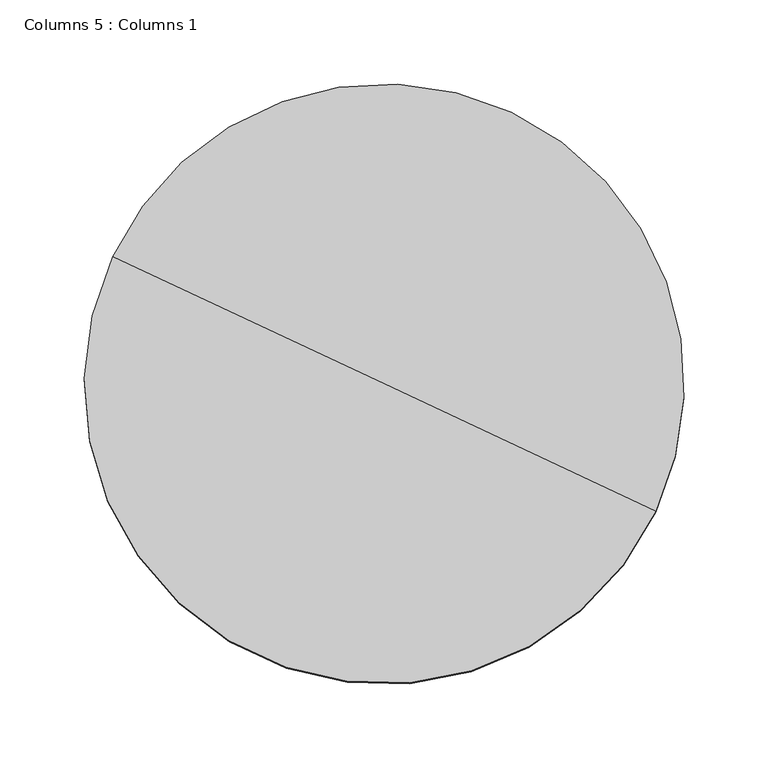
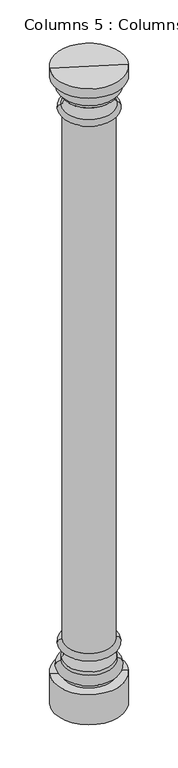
"""IFC4 building model written with IfcOpenShell, lengths in millimetres: column geometry, Columns 5 : Columns 1."""

import ifcopenshell
import ifcopenshell.guid

model = None  # the IFC model being written
_history = None  # IfcOwnerHistory: only IFC2X3 demands one
_inside = {}  # id of a spatial element -> (the spatial element, [elements in it])
_under = {}  # id of a project, library or spatial element -> (it, [spatial elements below it])
_declared = {}  # id of a project -> (the project, [libraries it declares])
_typed = {}  # id of a type object -> (the type object, [elements of that type])
_made_of = {}  # id of a material, layer set ... -> (it, [elements and type objects made of it])


def new_model(schema):
    """Start an empty IFC model of exactly this schema.

    Asked for "IFC4X3", IfcOpenShell would pick the latest addendum, in which some entities
    have other attributes; the version numbers below select the first issue.
    IFC2X3 requires an IfcOwnerHistory on every rooted entity: one is made here for all.
    """
    global model, _history
    if schema == "IFC4X3":
        model = ifcopenshell.file(schema_version=(4, 3, 0, 0))
    else:
        model = ifcopenshell.file(schema=schema)
    _inside.clear()
    _under.clear()
    _declared.clear()
    _typed.clear()
    _made_of.clear()
    _history = None
    if model.schema == "IFC2X3":
        org = make("IfcOrganization", Name="unknown")
        user = make(
            "IfcPersonAndOrganization",
            ThePerson=make("IfcPerson", FamilyName="unknown"),
            TheOrganization=org,
        )
        app = make(
            "IfcApplication",
            ApplicationDeveloper=org,
            Version="unknown",
            ApplicationFullName="unknown",
            ApplicationIdentifier="unknown",
        )
        _history = make(
            "IfcOwnerHistory",
            OwningUser=user,
            OwningApplication=app,
            ChangeAction="ADDED",
            CreationDate=0,
        )
    return model


def make(cls, **values):
    """One entity of the class cls with the attributes given. An attribute that is None is left unset."""
    return model.create_entity(
        cls, **{name: value for name, value in values.items() if value is not None}
    )


def rooted(cls, **values):
    """An entity with a GlobalId (a new one), such as an element, a storey or a relation."""
    return make(cls, GlobalId=ifcopenshell.guid.new(), OwnerHistory=_history, **values)


def si_unit(unit_type, name, prefix=None):
    """IfcSIUnit, for example si_unit("LENGTHUNIT", "METRE", prefix="MILLI")."""
    return make("IfcSIUnit", UnitType=unit_type, Prefix=prefix, Name=name)


def assignment(units):
    """IfcUnitAssignment: the units of a project."""
    return None if units is None else make("IfcUnitAssignment", Units=units)


def point(xyz):
    """IfcCartesianPoint."""
    return None if xyz is None else make("IfcCartesianPoint", Coordinates=xyz)


def direction(xyz):
    """IfcDirection."""
    return None if xyz is None else make("IfcDirection", DirectionRatios=xyz)


def frame(location, z_axis=None, x_axis=None):
    """IfcAxis2Placement3D, a coordinate frame: its origin and axes. An axis left out is left unset."""
    return make(
        "IfcAxis2Placement3D",
        Location=point(location),
        Axis=direction(z_axis),
        RefDirection=direction(x_axis),
    )


def origin():
    """The frame at (0, 0, 0) with its axes left unset."""
    return frame((0.0, 0.0, 0.0))


def place(relative_to, where):
    """IfcLocalPlacement: puts the frame where relative to a parent placement (None: the world)."""
    return make(
        "IfcLocalPlacement", PlacementRelTo=relative_to, RelativePlacement=where
    )


def context(
    kind, dimensions, precision=None, world=None, true_north=None, identifier=None
):
    """IfcGeometricRepresentationContext, for example the 3D "Model" context."""
    return make(
        "IfcGeometricRepresentationContext",
        ContextIdentifier=identifier,
        ContextType=kind,
        CoordinateSpaceDimension=dimensions,
        Precision=precision,
        WorldCoordinateSystem=world,
        TrueNorth=true_north,
    )


def project(units=None, contexts=None):
    """IfcProject with its units and contexts."""
    return rooted(
        "IfcProject",
        Name="project",
        RepresentationContexts=contexts,
        UnitsInContext=assignment(units),
    )


def spatial(cls, under=None, at=None, **own):
    """A site, building, storey or space (cls), placed at a placement, below another one or the project."""
    s = rooted(cls, ObjectPlacement=at, **own)
    if under is not None:
        _under.setdefault(under.id(), (under, []))[1].append(s)
    return s


def circle_curve(where, radius):
    """IfcCircle in the frame where."""
    return make("IfcCircle", Position=where, Radius=radius)


def ellipse_curve(where, semi_axis1, semi_axis2):
    """IfcEllipse in the frame where."""
    return make(
        "IfcEllipse", Position=where, SemiAxis1=semi_axis1, SemiAxis2=semi_axis2
    )


def trimmed(basis, trim1, trim2, sense, master):
    """IfcTrimmedCurve: the piece of a basis curve between two trims."""
    return make(
        "IfcTrimmedCurve",
        BasisCurve=basis,
        Trim1=trim1,
        Trim2=trim2,
        SenseAgreement=sense,
        MasterRepresentation=master,
    )


def shape(context_of_items, identifier, shape_type, items):
    """IfcShapeRepresentation: the items that make up one representation, for example the "Body"."""
    return make(
        "IfcShapeRepresentation",
        ContextOfItems=context_of_items,
        RepresentationIdentifier=identifier,
        RepresentationType=shape_type,
        Items=items,
    )


def source(mapping_origin, context_of_items, identifier, shape_type, items):
    """IfcRepresentationMap: a shape defined once, which mapped items show again and again."""
    return make(
        "IfcRepresentationMap",
        MappingOrigin=mapping_origin,
        MappedRepresentation=shape(context_of_items, identifier, shape_type, items),
    )


def transform(
    local_origin,
    x_axis=None,
    y_axis=None,
    z_axis=None,
    scale=None,
    scale2=None,
    scale3=None,
    uniform=True,
):
    """IfcCartesianTransformationOperator3D, or its non-uniform kind. x_axis, y_axis, z_axis: its Axis1, 2, 3."""
    if uniform:
        return make(
            "IfcCartesianTransformationOperator3D",
            Axis1=direction(x_axis),
            Axis2=direction(y_axis),
            LocalOrigin=point(local_origin),
            Scale=scale,
            Axis3=direction(z_axis),
        )
    return make(
        "IfcCartesianTransformationOperator3DnonUniform",
        Axis1=direction(x_axis),
        Axis2=direction(y_axis),
        LocalOrigin=point(local_origin),
        Scale=scale,
        Axis3=direction(z_axis),
        Scale2=scale2,
        Scale3=scale3,
    )


def mapped(mapping_source, mapping_target):
    """IfcMappedItem: shows the shape of a source again, moved by a transform."""
    return make(
        "IfcMappedItem", MappingSource=mapping_source, MappingTarget=mapping_target
    )


def made_of(thing, what):
    """Note that an element or type object is made of a material, layer set ...; save() writes the relation."""
    if what is not None:
        _made_of.setdefault(what.id(), (what, []))[1].append(thing)
    return thing


def element(
    cls,
    number,
    at=None,
    inside=None,
    cuts=None,
    type_object=None,
    material=None,
    context=None,
    identifier="Body",
    shape_type=None,
    held_by="IfcProductDefinitionShape",
    body=None,
    shapes=None,
    **own,
):
    """One element of the class cls, such as IfcWall. Its Tag is "e" and its number.

    at: its placement. inside: the storey or other place that contains it. cuts: it is an
    opening in that element (IfcRelVoidsElement). A single representation is given by context,
    identifier, shape_type and body (its items); several are given by shapes. held_by: the class
    of the entity that holds the representations. save() writes the other relations.
    """
    e = rooted(cls, Tag="e%d" % number, ObjectPlacement=at, **own)
    if body is not None:
        shapes = [shape(context, identifier, shape_type, body)]
    if shapes is not None:
        e.Representation = make(held_by, Representations=shapes)
    if inside is not None:
        _inside.setdefault(inside.id(), (inside, []))[1].append(e)
    if cuts is not None:
        rooted(
            "IfcRelVoidsElement", RelatingBuildingElement=cuts, RelatedOpeningElement=e
        )
    if type_object is not None:
        _typed.setdefault(type_object.id(), (type_object, []))[1].append(e)
    return made_of(e, material)


def aggregate(whole, parts):
    """IfcRelAggregates: a whole, such as a stair, and the parts it consists of."""
    return rooted("IfcRelAggregates", RelatingObject=whole, RelatedObjects=parts)


def save(model, path):
    """Write the relations noted so far, then the file.

    IfcRelAggregates (storeys below a building ...), IfcRelContainedInSpatialStructure (elements
    in a storey), IfcRelDefinesByType, IfcRelAssociatesMaterial and IfcRelDeclares: one each for
    every whole, place, type object, material and project.
    """
    for whole, parts in _under.values():
        aggregate(whole, parts)
    for where, things in _inside.values():
        rooted(
            "IfcRelContainedInSpatialStructure",
            RelatedElements=things,
            RelatingStructure=where,
        )
    for kind, things in _typed.values():
        rooted("IfcRelDefinesByType", RelatedObjects=things, RelatingType=kind)
    for what, things in _made_of.values():
        rooted("IfcRelAssociatesMaterial", RelatedObjects=things, RelatingMaterial=what)
    for by, libraries in _declared.values():
        rooted("IfcRelDeclares", RelatingContext=by, RelatedDefinitions=libraries)
    model.write(path)


def plane_surface(at):
    """IfcPlane: the flat surface through the origin of the frame at, square to its z axis."""
    return make("IfcPlane", Position=at)


def cylinder_surface(at, radius):
    """IfcCylindricalSurface: all points at the distance radius from the z axis of the frame at."""
    return make("IfcCylindricalSurface", Position=at, Radius=radius)


def revolved_surface(curve, axis_point, axis_direction):
    """IfcSurfaceOfRevolution: the curve turned about the line through axis_point along axis_direction."""
    return make(
        "IfcSurfaceOfRevolution",
        SweptCurve=make("IfcArbitraryOpenProfileDef", ProfileType="CURVE", Curve=curve),
        AxisPosition=make("IfcAxis1Placement", Location=point(axis_point), Axis=direction(axis_direction)),
    )


def advanced_brep(points, edges, surfaces, faces):
    """IfcAdvancedBrep: a solid bounded by faces that lie on surfaces and meet in shared edges.

    An edge is (start, end): straight between two places in points (the first is 0);
    or (start, end, curve); or (start, end, curve, False) where it runs against its curve.
    A face is (place in surfaces, loops), or (place, loops, False) where it looks against
    its surface's normal. A loop lists edges by number (the first is 1), with a minus sign
    where the edge is run from its end to its start. The first loop is the outer one.
    """
    corners = [point(p) for p in points]
    vertices = [make("IfcVertexPoint", VertexGeometry=c) for c in corners]
    made = []
    for start, end, *more in edges:
        made.append(
            make(
                "IfcEdgeCurve",
                EdgeStart=vertices[start],
                EdgeEnd=vertices[end],
                EdgeGeometry=more[0] if more else make("IfcPolyline", Points=[corners[start], corners[end]]),
                SameSense=more[1] if len(more) > 1 else True,
            )
        )
    hull = []
    for where, loops, *sense in faces:
        bounds = []
        for j, loop in enumerate(loops):
            ring = [make("IfcOrientedEdge", EdgeElement=made[abs(k) - 1], Orientation=k > 0) for k in loop]
            bounds.append(
                make(
                    "IfcFaceOuterBound" if j == 0 else "IfcFaceBound",
                    Bound=make("IfcEdgeLoop", EdgeList=ring),
                    Orientation=True,
                )
            )
        hull.append(make("IfcAdvancedFace", Bounds=bounds, FaceSurface=surfaces[where], SameSense=sense[0] if sense else True))
    return make("IfcAdvancedBrep", Outer=make("IfcClosedShell", CfsFaces=hull))


def columns_5_columns_1_10ea2eeb(model_context):
    return source(origin(), model_context, "Body", "AdvancedBrep", [
        advanced_brep(
        [(-13630.9638165, -8305.3703788, 3626.6477675), (-13953.0028061, -8154.5650435, 3626.6477675), (-13953.0028061, -8154.5650435, 3575.8477675), (-13630.9638165, -8305.3703788, 3575.8477675), (-13791.9833113, -8229.9677111, 3626.6477675), (-13630.9638165, -8305.3703788, 160.9345147), (-13953.0028061, -8154.5650435, 160.9345147), (-13791.9833113, -8229.9677111, 160.9345147), (-13630.9638165, -8305.3703788, 324.6477676), (-13953.0028061, -8154.5650435, 324.6477676), (-13677.6888754, -8283.4898351, 324.6477676), (-13906.2777472, -8176.4455872, 324.6477676), (-13677.6888754, -8283.4898351, 343.7101955), (-13906.2777472, -8176.4455872, 343.7101955), (-13677.6888754, -8283.4898351, 394.4853397), (-13906.2777472, -8176.4455872, 394.4853397), (-13677.6888754, -8283.4898351, 413.5477676), (-13906.2777472, -8176.4455872, 413.5477676), (-13682.7200827, -8281.133807, 477.0477676), (-13901.2465399, -8178.8016152, 477.0477676), (-13682.7200827, -8281.133807, 508.7757334), (-13901.2465399, -8178.8016152, 508.7757334), (-13682.7200827, -8281.133807, 3391.7198017), (-13901.2465399, -8178.8016152, 3391.7198017), (-13676.9693864, -8283.8267594, 3391.7198017), (-13906.9972361, -8176.1086628, 3391.7198017), (-13676.9693864, -8283.8267594, 3423.4477675), (-13906.9972361, -8176.1086628, 3423.4477675), (-13676.9693864, -8283.8267594, 3486.9477675), (-13906.9972361, -8176.1086628, 3486.9477675), (-13676.9693864, -8283.8267594, 3505.9977675), (-13906.9972361, -8176.1086628, 3505.9977675), (-13676.9693864, -8283.8267594, 3556.7977675), (-13906.9972361, -8176.1086628, 3556.7977675), (-13676.9693864, -8283.8267594, 3575.8477675), (-13906.9972361, -8176.1086628, 3575.8477675)],
        [
            (0, 1, circle_curve(frame((-13791.9833113, -8229.9677111, 3626.6477675), z_axis=(0.0, 0.0, -1.0), x_axis=(-0.9056214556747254, 0.4240869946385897, 0.0)), 177.8)),
            (1, 2),
            (2, 3, circle_curve(frame((-13791.9833113, -8229.9677111, 3575.8477675), z_axis=(0.0, 0.0, 1.0), x_axis=(-0.9056214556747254, 0.4240869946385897, 0.0)), 177.8)),
            (3, 0),
            (1, 0, circle_curve(frame((-13791.9833113, -8229.9677111, 3626.6477675), z_axis=(0.0, 0.0, -1.0), x_axis=(-0.9056214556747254, 0.4240869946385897, 0.0)), 177.8)),
            (3, 2, circle_curve(frame((-13791.9833113, -8229.9677111, 3575.8477675), z_axis=(0.0, 0.0, 1.0), x_axis=(-0.9056214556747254, 0.4240869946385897, 0.0)), 177.8)),
            (4, 1),
            (0, 4),
            (5, 6, circle_curve(frame((-13791.9833113, -8229.9677111, 160.9345147), z_axis=(0.0, 0.0, -1.0), x_axis=(-0.9056214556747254, 0.4240869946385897, 0.0)), 177.8)),
            (6, 7),
            (7, 5),
            (6, 5, circle_curve(frame((-13791.9833113, -8229.9677111, 160.9345147), z_axis=(0.0, 0.0, -1.0), x_axis=(-0.9056214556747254, 0.4240869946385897, 0.0)), 177.8)),
            (8, 9, circle_curve(frame((-13791.9833113, -8229.9677111, 324.6477676), z_axis=(0.0, 0.0, -1.0), x_axis=(-0.9056214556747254, 0.4240869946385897, 0.0)), 177.8)),
            (9, 6),
            (5, 8),
            (9, 8, circle_curve(frame((-13791.9833113, -8229.9677111, 324.6477676), z_axis=(0.0, 0.0, -1.0), x_axis=(-0.9056214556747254, 0.4240869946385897, 0.0)), 177.8)),
            (10, 11, circle_curve(frame((-13791.9833113, -8229.9677111, 324.6477676), z_axis=(0.0, 0.0, -1.0), x_axis=(-0.9056214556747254, 0.4240869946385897, 0.0)), 126.2055301)),
            (11, 9),
            (8, 10),
            (11, 10, circle_curve(frame((-13791.9833113, -8229.9677111, 324.6477676), z_axis=(0.0, 0.0, -1.0), x_axis=(-0.9056214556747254, 0.4240869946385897, 0.0)), 126.2055301)),
            (12, 13, circle_curve(frame((-13791.9833113, -8229.9677111, 343.7101955), z_axis=(0.0, 0.0, -1.0), x_axis=(-0.9056214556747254, 0.4240869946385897, 0.0)), 126.2055301)),
            (13, 11),
            (10, 12),
            (13, 12, circle_curve(frame((-13791.9833113, -8229.9677111, 343.7101955), z_axis=(0.0, 0.0, -1.0), x_axis=(-0.9056214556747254, 0.4240869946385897, 0.0)), 126.2055301)),
            (14, 15, circle_curve(frame((-13791.9833113, -8229.9677111, 394.4853397), z_axis=(0.0, 0.0, -1.0), x_axis=(-0.9056214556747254, 0.4240869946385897, 0.0)), 126.2055301)),
            (15, 13, circle_curve(frame((-13906.2777472, -8176.4455872, 369.0977676), z_axis=(-0.42408699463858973, -0.9056214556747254, 0.0), x_axis=(0.9056214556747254, -0.42408699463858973, 0.0)), 25.3875721)),
            (12, 14, circle_curve(frame((-13677.6888754, -8283.4898351, 369.0977676), z_axis=(-0.4240869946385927, -0.905621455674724, 0.0), x_axis=(-0.905621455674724, 0.4240869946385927, 0.0)), 25.3875721)),
            (15, 14, circle_curve(frame((-13791.9833113, -8229.9677111, 394.4853397), z_axis=(0.0, 0.0, -1.0), x_axis=(-0.9056214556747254, 0.4240869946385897, 0.0)), 126.2055301)),
            (16, 17, circle_curve(frame((-13791.9833113, -8229.9677111, 413.5477676), z_axis=(0.0, 0.0, -1.0), x_axis=(-0.9056214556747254, 0.4240869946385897, 0.0)), 126.2055301)),
            (17, 15),
            (14, 16),
            (17, 16, circle_curve(frame((-13791.9833113, -8229.9677111, 413.5477676), z_axis=(0.0, 0.0, -1.0), x_axis=(-0.9056214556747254, 0.4240869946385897, 0.0)), 126.2055301)),
            (18, 19, circle_curve(frame((-13791.9833113, -8229.9677111, 477.0477676), z_axis=(0.0, 0.0, -1.0), x_axis=(-0.9056214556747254, 0.4240869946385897, 0.0)), 120.65)),
            (19, 17, circle_curve(frame((-13931.8859891, -8164.4536867, 448.014706), z_axis=(0.42408699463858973, 0.9056214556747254, 0.0), x_axis=(0.9056214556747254, -0.42408699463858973, 0.0)), 44.5820319)),
            (16, 18, circle_curve(frame((-13652.0806335, -8295.4817355, 448.014706), z_axis=(0.4240869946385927, 0.905621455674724, 0.0), x_axis=(-0.905621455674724, 0.4240869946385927, 0.0)), 44.5820319)),
            (19, 18, circle_curve(frame((-13791.9833113, -8229.9677111, 477.0477676), z_axis=(0.0, 0.0, -1.0), x_axis=(-0.9056214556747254, 0.4240869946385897, 0.0)), 120.65)),
            (20, 21, circle_curve(frame((-13791.9833113, -8229.9677111, 508.7757334), z_axis=(0.0, 0.0, -1.0), x_axis=(-0.9056214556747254, 0.4240869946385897, 0.0)), 120.65)),
            (21, 19, circle_curve(frame((-13906.0643763, -8176.5455051, 492.9117505), z_axis=(-0.42408699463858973, -0.9056214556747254, 0.0), x_axis=(0.9056214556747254, -0.42408699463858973, 0.0)), 16.7322304)),
            (18, 20, circle_curve(frame((-13677.9022462, -8283.3899172, 492.9117505), z_axis=(-0.4240869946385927, -0.905621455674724, 0.0), x_axis=(-0.905621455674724, 0.4240869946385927, 0.0)), 16.7322304)),
            (21, 20, circle_curve(frame((-13791.9833113, -8229.9677111, 508.7757334), z_axis=(0.0, 0.0, -1.0), x_axis=(-0.9056214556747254, 0.4240869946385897, 0.0)), 120.65)),
            (22, 23, circle_curve(frame((-13791.9833113, -8229.9677111, 3391.7198017), z_axis=(0.0, 0.0, -1.0), x_axis=(-0.9056214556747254, 0.4240869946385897, 0.0)), 120.65)),
            (23, 21),
            (20, 22),
            (23, 22, circle_curve(frame((-13791.9833113, -8229.9677111, 3391.7198017), z_axis=(0.0, 0.0, -1.0), x_axis=(-0.9056214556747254, 0.4240869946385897, 0.0)), 120.65)),
            (24, 25, circle_curve(frame((-13791.9833113, -8229.9677111, 3391.7198017), z_axis=(0.0, 0.0, -1.0), x_axis=(-0.9056214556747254, 0.4240869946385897, 0.0)), 127.0)),
            (25, 23),
            (22, 24),
            (25, 24, circle_curve(frame((-13791.9833113, -8229.9677111, 3391.7198017), z_axis=(0.0, 0.0, -1.0), x_axis=(-0.9056214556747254, 0.4240869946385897, 0.0)), 127.0)),
            (26, 27, circle_curve(frame((-13791.9833113, -8229.9677111, 3423.4477675), z_axis=(0.0, 0.0, -1.0), x_axis=(-0.9056214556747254, 0.4240869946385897, 0.0)), 127.0)),
            (27, 25, circle_curve(frame((-13906.9972361, -8176.1086628, 3407.5837846), z_axis=(-0.42408699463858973, -0.9056214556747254, 0.0), x_axis=(0.9056214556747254, -0.42408699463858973, 0.0)), 15.8639829)),
            (24, 26, circle_curve(frame((-13676.9693864, -8283.8267594, 3407.5837846), z_axis=(-0.4240869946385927, -0.905621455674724, 0.0), x_axis=(-0.905621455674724, 0.4240869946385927, 0.0)), 15.8639829)),
            (27, 26, circle_curve(frame((-13791.9833113, -8229.9677111, 3423.4477675), z_axis=(0.0, 0.0, -1.0), x_axis=(-0.9056214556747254, 0.4240869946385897, 0.0)), 127.0)),
            (28, 29, circle_curve(frame((-13791.9833113, -8229.9677111, 3486.9477675), z_axis=(0.0, 0.0, -1.0), x_axis=(-0.9056214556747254, 0.4240869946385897, 0.0)), 127.0)),
            (29, 27, circle_curve(frame((-13930.5139847, -8165.0961728, 3455.1977675), z_axis=(0.42408699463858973, 0.9056214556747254, 0.0), x_axis=(0.9056214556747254, -0.42408699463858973, 0.0)), 41.0167636)),
            (26, 28, circle_curve(frame((-13653.4526379, -8294.8392494, 3455.1977675), z_axis=(0.4240869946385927, 0.905621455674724, 0.0), x_axis=(-0.905621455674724, 0.4240869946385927, 0.0)), 41.0167636)),
            (29, 28, circle_curve(frame((-13791.9833113, -8229.9677111, 3486.9477675), z_axis=(0.0, 0.0, -1.0), x_axis=(-0.9056214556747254, 0.4240869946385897, 0.0)), 127.0)),
            (30, 31, circle_curve(frame((-13791.9833113, -8229.9677111, 3505.9977675), z_axis=(0.0, 0.0, -1.0), x_axis=(-0.9056214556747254, 0.4240869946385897, 0.0)), 127.0)),
            (31, 29),
            (28, 30),
            (31, 30, circle_curve(frame((-13791.9833113, -8229.9677111, 3505.9977675), z_axis=(0.0, 0.0, -1.0), x_axis=(-0.9056214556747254, 0.4240869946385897, 0.0)), 127.0)),
            (32, 33, circle_curve(frame((-13791.9833113, -8229.9677111, 3556.7977675), z_axis=(0.0, 0.0, -1.0), x_axis=(-0.9056214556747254, 0.4240869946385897, 0.0)), 127.0)),
            (33, 31, circle_curve(frame((-13906.9972361, -8176.1086628, 3531.3977675), z_axis=(-0.42408699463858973, -0.9056214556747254, 0.0), x_axis=(0.9056214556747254, -0.42408699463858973, 0.0)), 25.4)),
            (30, 32, circle_curve(frame((-13676.9693864, -8283.8267594, 3531.3977675), z_axis=(-0.4240869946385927, -0.905621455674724, 0.0), x_axis=(-0.905621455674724, 0.4240869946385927, 0.0)), 25.4)),
            (33, 32, circle_curve(frame((-13791.9833113, -8229.9677111, 3556.7977675), z_axis=(0.0, 0.0, -1.0), x_axis=(-0.9056214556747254, 0.4240869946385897, 0.0)), 127.0)),
            (34, 35, circle_curve(frame((-13791.9833113, -8229.9677111, 3575.8477675), z_axis=(0.0, 0.0, -1.0), x_axis=(-0.9056214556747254, 0.4240869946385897, 0.0)), 127.0)),
            (35, 33),
            (32, 34),
            (35, 34, circle_curve(frame((-13791.9833113, -8229.9677111, 3575.8477675), z_axis=(0.0, 0.0, -1.0), x_axis=(-0.9056214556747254, 0.4240869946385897, 0.0)), 127.0)),
            (2, 35),
            (34, 3),
        ],
        [
            cylinder_surface(frame((-13791.9833113, -8229.9677111, 273.8477676), z_axis=(0.0, 0.0, 1.0), x_axis=(-0.9056214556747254, 0.4240869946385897, 0.0)), 177.8),
            plane_surface(frame((-13791.9833113, -8229.9677111, 3626.6477675), z_axis=(0.0, 0.0, 1.0), x_axis=(-0.9056214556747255, 0.42408699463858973, 0.0))),
            plane_surface(frame((-13791.9833113, -8229.9677111, 160.9345147), z_axis=(0.0, 0.0, -1.0), x_axis=(-0.9056214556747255, 0.42408699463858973, 0.0))),
            plane_surface(frame((-13791.9833113, -8229.9677111, 324.6477676), z_axis=(0.0, 0.0, 1.0), x_axis=(-0.9056214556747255, 0.42408699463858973, 0.0))),
            cylinder_surface(frame((-13791.9833113, -8229.9677111, 273.8477676), z_axis=(0.0, 0.0, 1.0), x_axis=(-0.9056214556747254, 0.4240869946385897, 0.0)), 126.2055301),
            revolved_surface(trimmed(ellipse_curve(frame((-13906.2777472, -8176.4455872, 369.0977676), z_axis=(0.42408699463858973, 0.9056214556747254, 0.0), x_axis=(0.9056214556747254, -0.42408699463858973, 0.0)), 25.3875721, 25.3875721), [point((-13906.2777472, -8176.4455872, 343.7101955))], [point((-13906.2777472, -8176.4455872, 394.4853397))], True, "CARTESIAN"), (-13791.9833113, -8229.9677111, 273.8477676), (0.0, 0.0, 1.0)),
            revolved_surface(trimmed(ellipse_curve(frame((-13931.8859891, -8164.4536867, 448.014706), z_axis=(-0.42408699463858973, -0.9056214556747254, 0.0), x_axis=(0.9056214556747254, -0.42408699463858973, 0.0)), 44.5820319, 44.5820319), [point((-13906.2777472, -8176.4455872, 413.5477676))], [point((-13901.2465399, -8178.8016152, 477.0477676))], True, "CARTESIAN"), (-13791.9833113, -8229.9677111, 273.8477676), (0.0, 0.0, 1.0)),
            revolved_surface(trimmed(ellipse_curve(frame((-13906.0643763, -8176.5455051, 492.9117505), z_axis=(0.42408699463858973, 0.9056214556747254, 0.0), x_axis=(0.9056214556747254, -0.42408699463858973, 0.0)), 16.7322304, 16.7322304), [point((-13901.2465399, -8178.8016152, 477.0477676))], [point((-13901.2465399, -8178.8016152, 508.7757334))], True, "CARTESIAN"), (-13791.9833113, -8229.9677111, 273.8477676), (0.0, 0.0, 1.0)),
            cylinder_surface(frame((-13791.9833113, -8229.9677111, 273.8477676), z_axis=(0.0, 0.0, 1.0), x_axis=(-0.9056214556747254, 0.4240869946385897, 0.0)), 120.65),
            plane_surface(frame((-13791.9833113, -8229.9677111, 3391.7198017), z_axis=(0.0, 0.0, -1.0), x_axis=(-0.9056214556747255, 0.42408699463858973, 0.0))),
            revolved_surface(trimmed(ellipse_curve(frame((-13906.9972361, -8176.1086628, 3407.5837846), z_axis=(0.42408699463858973, 0.9056214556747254, 0.0), x_axis=(0.9056214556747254, -0.42408699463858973, 0.0)), 15.8639829, 15.8639829), [point((-13906.9972361, -8176.1086628, 3391.7198017))], [point((-13906.9972361, -8176.1086628, 3423.4477675))], True, "CARTESIAN"), (-13791.9833113, -8229.9677111, 273.8477676), (0.0, 0.0, 1.0)),
            revolved_surface(trimmed(ellipse_curve(frame((-13930.5139847, -8165.0961728, 3455.1977675), z_axis=(-0.42408699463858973, -0.9056214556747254, 0.0), x_axis=(0.9056214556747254, -0.42408699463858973, 0.0)), 41.0167636, 41.0167636), [point((-13906.9972361, -8176.1086628, 3423.4477675))], [point((-13906.9972361, -8176.1086628, 3486.9477675))], True, "CARTESIAN"), (-13791.9833113, -8229.9677111, 273.8477676), (0.0, 0.0, 1.0)),
            cylinder_surface(frame((-13791.9833113, -8229.9677111, 273.8477676), z_axis=(0.0, 0.0, 1.0), x_axis=(-0.9056214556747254, 0.4240869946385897, 0.0)), 127.0),
            revolved_surface(trimmed(ellipse_curve(frame((-13906.9972361, -8176.1086628, 3531.3977675), z_axis=(0.42408699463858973, 0.9056214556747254, 0.0), x_axis=(0.9056214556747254, -0.42408699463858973, 0.0)), 25.4, 25.4), [point((-13906.9972361, -8176.1086628, 3505.9977675))], [point((-13906.9972361, -8176.1086628, 3556.7977675))], True, "CARTESIAN"), (-13791.9833113, -8229.9677111, 273.8477676), (0.0, 0.0, 1.0)),
            plane_surface(frame((-13791.9833113, -8229.9677111, 3575.8477675), z_axis=(0.0, 0.0, -1.0), x_axis=(-0.9056214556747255, 0.42408699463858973, 0.0))),
        ],
        [
            (0, [[1, 2, 3, 4]]),
            (0, [[5, -4, 6, -2]]),
            (1, [[7, -1, 8]]),
            (1, [[-8, -5, -7]]),
            (2, [[9, 10, 11]]),
            (2, [[12, -11, -10]]),
            (0, [[13, 14, -9, 15]]),
            (0, [[16, -15, -12, -14]]),
            (3, [[17, 18, -13, 19]]),
            (3, [[20, -19, -16, -18]]),
            (4, [[21, 22, -17, 23]]),
            (4, [[24, -23, -20, -22]]),
            (5, [[25, 26, -21, 27]]),
            (5, [[28, -27, -24, -26]]),
            (4, [[29, 30, -25, 31]]),
            (4, [[32, -31, -28, -30]]),
            (6, [[33, 34, -29, 35]]),
            (6, [[36, -35, -32, -34]]),
            (7, [[37, 38, -33, 39]]),
            (7, [[40, -39, -36, -38]]),
            (8, [[41, 42, -37, 43]]),
            (8, [[44, -43, -40, -42]]),
            (9, [[45, 46, -41, 47]]),
            (9, [[48, -47, -44, -46]]),
            (10, [[49, 50, -45, 51]]),
            (10, [[52, -51, -48, -50]]),
            (11, [[53, 54, -49, 55]]),
            (11, [[56, -55, -52, -54]]),
            (12, [[57, 58, -53, 59]]),
            (12, [[60, -59, -56, -58]]),
            (13, [[61, 62, -57, 63]]),
            (13, [[64, -63, -60, -62]]),
            (12, [[65, 66, -61, 67]]),
            (12, [[68, -67, -64, -66]]),
            (14, [[-3, 69, -65, 70]]),
            (14, [[-6, -70, -68, -69]]),
        ],
    ),
    ])


if __name__ == "__main__":
    model = new_model("IFC4")
    model_context = context("Model", 3, world=origin())
    ifc_project = project(units=[si_unit("LENGTHUNIT", "METRE", prefix="MILLI")], contexts=[model_context])
    site = spatial("IfcSite", under=ifc_project)
    building = spatial("IfcBuilding", under=site)
    placement = place(None, origin())
    columns_5_columns_1_shape = columns_5_columns_1_10ea2eeb(model_context)
    element("IfcColumn", 1, ObjectType="Columns 5 : Columns 1", at=placement, inside=building, context=model_context, shape_type="MappedRepresentation", body=[
        mapped(columns_5_columns_1_shape, transform((0.0, 0.0, 0.0), x_axis=(1.0, 0.0, 0.0), y_axis=(0.0, 1.0, 0.0), z_axis=(0.0, 0.0, 1.0))),
    ])
    save(model, "model.ifc")
